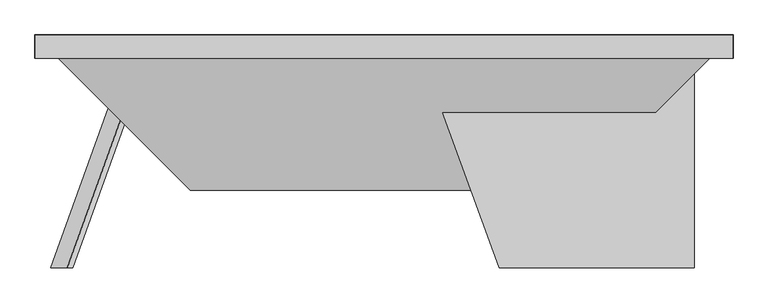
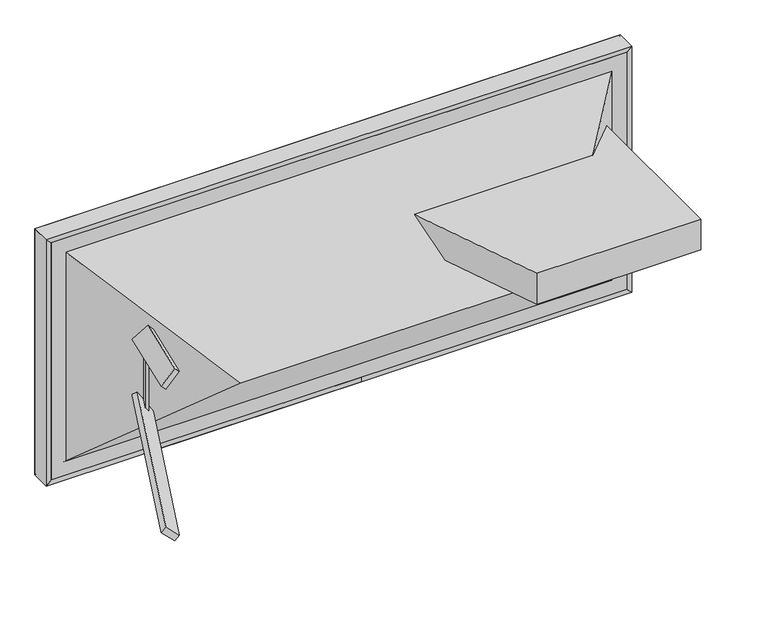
"""IFC4 building model written with IfcOpenShell, lengths in millimetres: proxy geometry, DATUM^OFFICE 1_DESK-SOLID ASSEMBLY."""

from ifc_helpers import new_model, si_unit, frame, origin, origin_with_axes, place, context, project, spatial, polyline, outline, extrude, faceted_brep, source, transform, mapped, element, save


def generic_models_0e8dc97b(model_context):
    return source(origin(), model_context, "Body", "SolidModel", [
        faceted_brep([(294.8061415, 529.0964283, 381.0079196), (282.857532, 533.4, 396.0489388), (282.857532, 533.4, 619.9510612), (294.8061415, 529.0964283, 634.9920804), (257.0361019, 461.7083426, 370.2109562), (257.0361019, 461.7083426, 645.7890438), (268.9847114, 457.4047709, 355.169937), (268.9847114, 457.4047709, 660.830063)], [[[0, 1, 2, 3]], [[1, 4, 5, 2]], [[6, 0, 3, 7]], [[4, 6, 7, 5]], [[4, 1, 0, 6]], [[2, 5, 7, 3]]]),
        extrude(outline(polyline([(-187.4162767, -342.9), (162.0162766, 342.9), (187.4162766, 342.9), (-162.0162767, -342.9), (-187.4162767, -342.9)])), frame((238.9179531, 342.9, 284.779513), z_axis=(-0.7073333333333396, 0.0, 0.7068801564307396), x_axis=(0.7068801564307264, 0.0, 0.7073333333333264)), (0.0, 0.0, 1.0), 76.2),
        extrude(outline(polyline([(-187.4162766, -342.9), (162.0162766, 342.9), (187.4162766, 342.9), (-162.0162767, -342.9), (-187.4162766, -342.9)])), frame((185.0191531, 342.9, 677.3562191), z_axis=(0.7073333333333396, 0.0, 0.7068801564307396), x_axis=(0.7068801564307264, 0.0, -0.7073333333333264)), (0.0, 0.0, 1.0), 76.2),
        extrude(outline(polyline([(1230.3125, 733.425), (1230.3125, 685.8), (420.6875, 685.8), (420.6875, 733.425), (1230.3125, 733.425)])), origin_with_axes(), (0.0, 0.0, 1.0), 19.05),
        extrude(outline(polyline([(2266.95, 685.8), (19.05, 685.8), (19.05, 717.55), (2266.95, 717.55), (2266.95, 685.8)])), frame((0.0, 0.0, 19.05), z_axis=(0.0, 0.0, 1.0), x_axis=(1.0, 0.0, 0.0)), (0.0, 0.0, 1.0), 977.9),
        faceted_brep([(2286.0, 762.0, 1016.0), (0.0, 762.0, 1016.0), (0.0, 685.8, 1016.0), (2286.0, 685.8, 1016.0), (19.05, 742.95, 996.95), (19.05, 685.8, 996.95), (2266.95, 742.95, 996.95), (2266.95, 685.8, 996.95)], [[[0, 1, 2, 3]], [[1, 4, 5, 2]], [[4, 6, 7, 5]], [[6, 0, 3, 7]], [[3, 2, 5, 7]], [[4, 1, 0, 6]]]),
        faceted_brep([(2266.95, 742.95, 19.05), (2286.0, 762.0, 0.0), (2286.0, 685.8, 0.0), (2266.95, 685.8, 19.05), (2286.0, 762.0, 1016.0), (2286.0, 685.8, 1016.0), (2266.95, 742.95, 996.95), (2266.95, 685.8, 996.95)], [[[0, 1, 2, 3]], [[1, 4, 5, 2]], [[4, 6, 7, 5]], [[6, 0, 3, 7]], [[3, 2, 5, 7]], [[4, 1, 0, 6]]]),
        faceted_brep([(0.0, 762.0, 1016.0), (0.0, 762.0, 0.0), (0.0, 685.8, 0.0), (0.0, 685.8, 1016.0), (19.05, 742.95, 19.05), (19.05, 685.8, 19.05), (19.05, 742.95, 996.95), (19.05, 685.8, 996.95)], [[[0, 1, 2, 3]], [[1, 4, 5, 2]], [[4, 6, 7, 5]], [[6, 0, 3, 7]], [[3, 2, 5, 7]], [[4, 1, 0, 6]]]),
        extrude(outline(polyline([(2159.0, 685.8), (2159.0, 0.0), (1519.6107867, 0.0), (1270.0, 685.8), (2159.0, 685.8)])), frame((0.0, 0.0, 635.0), z_axis=(0.0, 0.0, 1.0), x_axis=(1.0, 0.0, 0.0)), (0.0, 0.0, 1.0), 127.0),
        faceted_brep([(0.0, 685.8, 0.0), (2286.0, 685.8, 0.0), (2266.95, 685.8, 19.05), (19.05, 685.8, 19.05), (0.0, 762.0, 0.0), (2286.0, 762.0, 0.0), (2266.95, 742.95, 19.05), (19.05, 742.95, 19.05)], [[[0, 1, 2, 3]], [[1, 0, 4, 5]], [[5, 6, 2, 1]], [[3, 2, 6, 7]], [[7, 4, 0, 3]], [[6, 5, 4, 7]]]),
        faceted_brep([(2286.0, 762.0, 0.0), (1778.0, 254.0, 508.0), (508.0, 254.0, 508.0), (0.0, 762.0, 0.0), (2286.0, 762.0, 1016.0), (0.0, 762.0, 1016.0)], [[[0, 1, 2, 3]], [[1, 0, 4]], [[3, 2, 5]], [[1, 4, 5, 2]], [[5, 4, 0, 3]]]),
    ])


if __name__ == "__main__":
    model = new_model("IFC4")
    model_context = context("Model", 3, world=origin())
    ifc_project = project(units=[si_unit("LENGTHUNIT", "METRE", prefix="MILLI")], contexts=[model_context])
    site = spatial("IfcSite", under=ifc_project)
    building = spatial("IfcBuilding", under=site)
    placement = place(None, origin())
    generic_models_shape = generic_models_0e8dc97b(model_context)
    element("IfcBuildingElementProxy", 1, Name="DATUM^OFFICE 1_DESK-SOLID ASSEMBLY", ObjectType="DATUM^OFFICE 1_DESK-SOLID ASSEMBLY", at=placement, inside=building, context=model_context, shape_type="MappedRepresentation", body=[
        mapped(generic_models_shape, transform((0.0, 0.0, 0.0), x_axis=(1.0, 0.0, 0.0), y_axis=(0.0, 1.0, 0.0), z_axis=(0.0, 0.0, 1.0))),
    ])
    save(model, "model.ifc")
